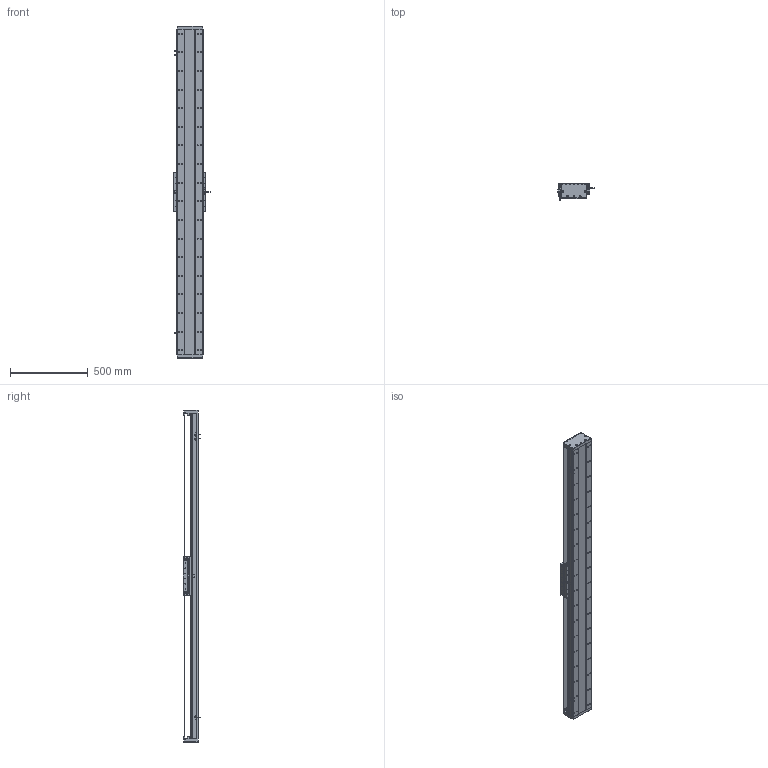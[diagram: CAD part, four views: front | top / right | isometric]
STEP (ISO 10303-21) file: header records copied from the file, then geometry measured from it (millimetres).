
FILE_DESCRIPTION (( 'STEP AP203' ), '1' );
FILE_NAME ('DA-C165-C3-T1800-C010-0.2 直线电机.STEP', '2023-06-13T08:49:09', ( '微软用户' ), ( '微软中国' ), 'SwSTEP 2.0', 'SolidWorks 2019', '' );
FILE_SCHEMA (( 'CONFIG_CONTROL_DESIGN' ));
Length unit declared in the file: millimetre
Products named in the file (18): 葩璃 CKM01-W075-TRL^DA-C165-C3-T-C010-0.2-N 眻盄萇儂; 葩璃 PM-T45^DA-C165-C3-T-C010-0.2-N 眻盄萇儂; 复件 DA95-HXJ-00 缓冲橡胶^DA-C165-C3-T-C010-0.2-N 直线电机; 复件 DA165-GYP-00 光电感应片^DA-C165-C3-T-C010-0.2-N 直线电机; 复件 DA165-GDLK-00 钢带拉块^复件 CU165钢带组件_DA-C165-C3-T-C010-0.2-N 直线电机; 复件 CU165钢带组件^DA-C165-C3-T-C010-0.2-N 直线电机; 复件 XD-U-02L 磁栅尺^DA-C165-C3-T-C010-0.2-N 直线电机_T; 复件 六角薄螺母 M3^DA-C165-C3-T-C010-0.2-N 直线电机_GB_FASTENER_NUT_STNAB M3-C; 葩璃 DA95-GT-T-00^IU-CU165-L 菁釱絳寢_T; DA-C165-C3-T1800-C010-0.2 眻盄萇儂; 葩璃 CKM03-W075-C1C2-TP-3.0^DA-C165-C3-T-C010-0.2-N 眻盄萇儂; 复件 DMA-010-0.2 读数头^DA-C165-C3-T-C010-0.2-N 直线电机; 复件 DA165-GDYK-00 钢带压块^复件 CU165钢带组件_DA-C165-C3-T-C010-0.2-N 直线电机; 复件 DA165-GD-1860-002-00 钢带盖板^复件 CU165钢带组件_DA-C165-C3-T-C010-0.2-N 直线电机; 复件 DA165-GD-DG-H-00 端盖^复件 CU165钢带组件_DA-C165-C3-T-C010-0.2-N 直线电机; 复件 CU165 底座^IU-CU165-L 底座导轨_L2100; 珨极趙賑雄怢啣C3-wf; IU-CU165-L 菁釱絳寢
Assembly tree (35 placements, depth 3):
  DA-C165-C3-T1800-C010-0.2 眻盄萇儂
    IU-CU165-L 菁釱絳寢
      复件 CU165 底座^IU-CU165-L 底座导轨_L2100
      葩璃 DA95-GT-T-00^IU-CU165-L 菁釱絳寢_T  x4
    复件 XD-U-02L 磁栅尺^DA-C165-C3-T-C010-0.2-N 直线电机_T
    葩璃 PM-T45^DA-C165-C3-T-C010-0.2-N 眻盄萇儂  x3
    葩璃 CKM01-W075-TRL^DA-C165-C3-T-C010-0.2-N 眻盄萇儂
    复件 CU165钢带组件^DA-C165-C3-T-C010-0.2-N 直线电机
      复件 DA165-GD-DG-H-00 端盖^复件 CU165钢带组件_DA-C165-C3-T-C010-0.2-N 直线电机  x2
      复件 DA165-GDYK-00 钢带压块^复件 CU165钢带组件_DA-C165-C3-T-C010-0.2-N 直线电机  x2
      复件 DA165-GD-1860-002-00 钢带盖板^复件 CU165钢带组件_DA-C165-C3-T-C010-0.2-N 直线电机
      复件 DA165-GDLK-00 钢带拉块^复件 CU165钢带组件_DA-C165-C3-T-C010-0.2-N 直线电机  x2
    复件 DA95-HXJ-00 缓冲橡胶^DA-C165-C3-T-C010-0.2-N 直线电机  x4
    复件 DA165-GYP-00 光电感应片^DA-C165-C3-T-C010-0.2-N 直线电机
    复件 DMA-010-0.2 读数头^DA-C165-C3-T-C010-0.2-N 直线电机
    葩璃 CKM03-W075-C1C2-TP-3.0^DA-C165-C3-T-C010-0.2-N 眻盄萇儂
    复件 六角薄螺母 M3^DA-C165-C3-T-C010-0.2-N 直线电机_GB_FASTENER_NUT_STNAB M3-C  x8
    珨极趙賑雄怢啣C3-wf
Bounding box: 233 x 111.45 x 2140 mm (x, y, z)
Volume: 12810926.6 mm3; surface area: 3733581.3 mm2
Topology: 72 solids, 122 shells, 4122 faces, 11585 edges, 7284 vertices
Faces by surface type: cylinder 2296, plane 1200, cone 576, torus 46, sphere 4
Entity records: 131753 total; most frequent: CARTESIAN_POINT 34563, ORIENTED_EDGE 19922, DIRECTION 19791, EDGE_CURVE 9961, AXIS2_PLACEMENT_3D 7582, VERTEX_POINT 6472, EDGE_LOOP 4679, LINE 4627
